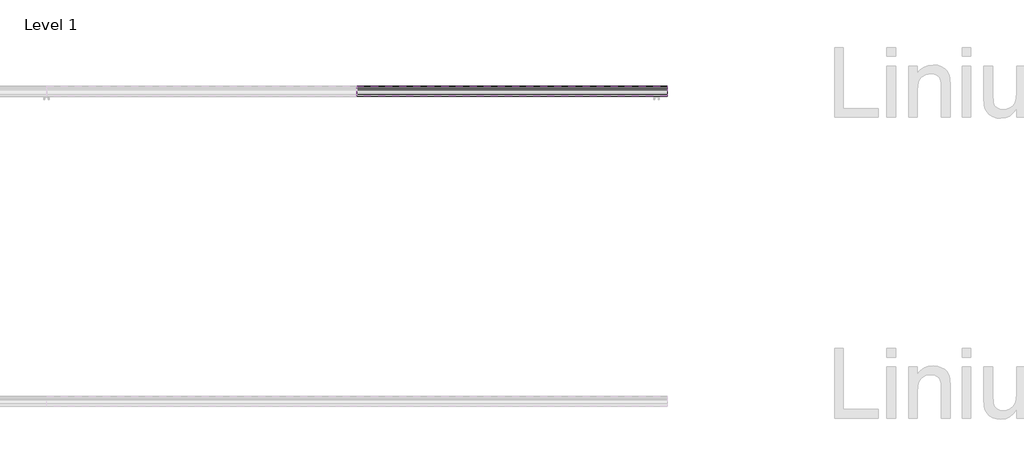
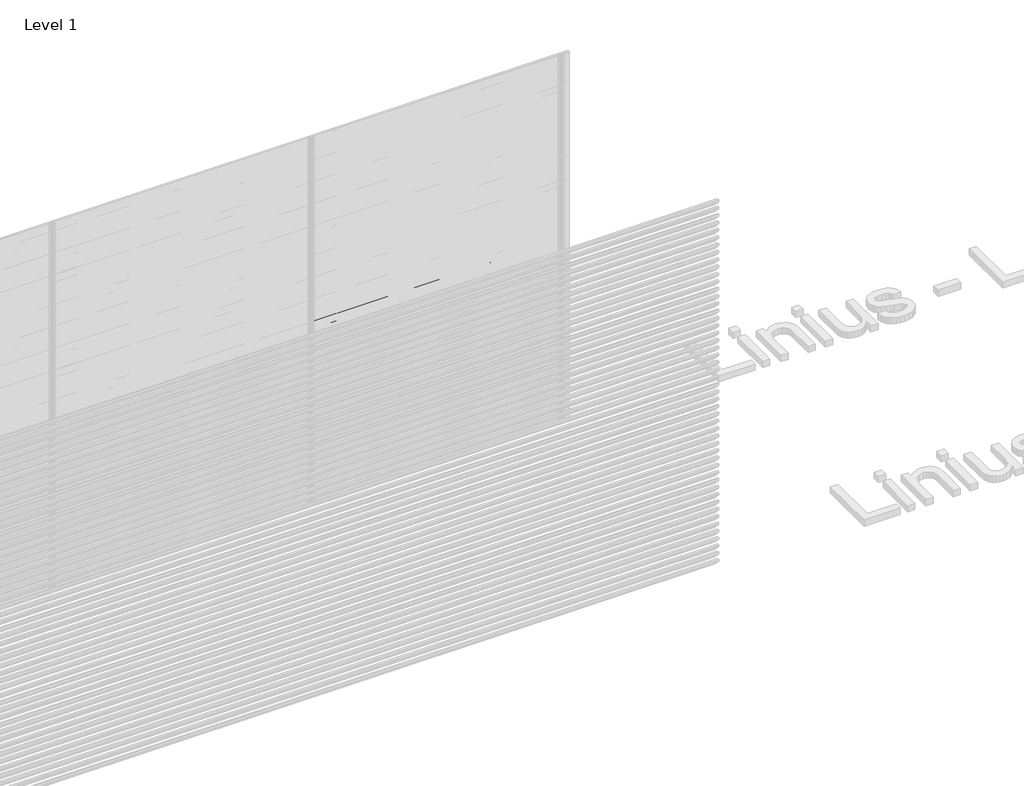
# One storey, part 147 of 153: 25 proxies.
"""IFC4 building model written with IfcOpenShell, lengths in millimetres."""

from ifc_helpers import new_model, si_unit, point, frame, frame_2d, origin, place, context, project, spatial, polyline, circle_curve, trimmed, segment, composite_curve, outline, extrude, element, save

model = new_model("IFC4")

# Units and contexts
model_context = context("Model", 3, world=origin())
ifc_project = project(units=[si_unit("LENGTHUNIT", "METRE", prefix="MILLI")], contexts=[model_context])

# Site, building, storey
site = spatial("IfcSite", under=ifc_project)
building = spatial("IfcBuilding", under=site)
storey = spatial("IfcBuildingStorey", under=building, Name="Level 1", Elevation=0.0)

# Proxies
placement = place(None, origin())
element("IfcBuildingElementProxy", 1, Name="Wall Sweeps", at=placement, inside=storey, context=model_context, shape_type="SweptSolid", body=[
    extrude(outline(composite_curve([segment(polyline([(66485.0540136, 1500.0), (66499.874191, 1498.7034025), (66549.0540136, 1445.0102749), (66549.0540136, 1433.6108187)]), True, "CONTINUOUS"), segment(trimmed(circle_curve(frame_2d((66545.7883652, 1433.897153)), 3.2781774), [point((66549.0540136, 1433.6108187))], [point((66546.4639442, 1430.6893438))], False, "CARTESIAN"), True, "CONTINUOUS"), segment(polyline([(66546.4639442, 1430.6893438), (66534.1895723, 1431.6282758), (66485.0540136, 1485.2730773), (66485.0540136, 1500.0)]), True, "CONTINUOUS")], self_intersect=False), holes=[composite_curve([segment(polyline([(66499.1621773, 1497.2599659), (66486.5540136, 1498.3630372), (66486.5540136, 1485.856213), (66534.8952036, 1433.0786805), (66546.3312542, 1432.2038762)]), True, "CONTINUOUS"), segment(trimmed(circle_curve(frame_2d((66545.7883652, 1433.897153)), 1.7781774), [point((66546.3312542, 1432.2038762))], [point((66547.5540136, 1433.6864389))], True, "CARTESIAN"), True, "CONTINUOUS"), segment(polyline([(66547.5540136, 1433.6864389), (66547.5540136, 1444.4271392), (66499.1621773, 1497.2599659)]), True, "CONTINUOUS")], self_intersect=False)]), frame((48966.6208096, 0.0, 0.0), z_axis=(1.0, 0.0, 0.0), x_axis=(0.0, 1.0, 0.0)), (0.0, 0.0, 1.0), 2000.0000001),
])
element("IfcBuildingElementProxy", 2, Name="Wall Sweeps", at=placement, inside=storey, context=model_context, shape_type="SweptSolid", body=[
    extrude(outline(composite_curve([segment(polyline([(66485.0540136, 1440.0), (66499.874191, 1438.7034025), (66549.0540136, 1385.0102749), (66549.0540136, 1373.6108187)]), True, "CONTINUOUS"), segment(trimmed(circle_curve(frame_2d((66545.7883652, 1373.897153)), 3.2781774), [point((66549.0540136, 1373.6108187))], [point((66546.4639442, 1370.6893438))], False, "CARTESIAN"), True, "CONTINUOUS"), segment(polyline([(66546.4639442, 1370.6893438), (66534.1895723, 1371.6282758), (66485.0540136, 1425.2730773), (66485.0540136, 1440.0)]), True, "CONTINUOUS")], self_intersect=False), holes=[composite_curve([segment(polyline([(66499.1621773, 1437.2599659), (66486.5540136, 1438.3630372), (66486.5540136, 1425.856213), (66534.8952036, 1373.0786805), (66546.3312542, 1372.2038762)]), True, "CONTINUOUS"), segment(trimmed(circle_curve(frame_2d((66545.7883652, 1373.897153)), 1.7781774), [point((66546.3312542, 1372.2038762))], [point((66547.5540136, 1373.6864389))], True, "CARTESIAN"), True, "CONTINUOUS"), segment(polyline([(66547.5540136, 1373.6864389), (66547.5540136, 1384.4271392), (66499.1621773, 1437.2599659)]), True, "CONTINUOUS")], self_intersect=False)]), frame((48966.6208096, 0.0, 0.0), z_axis=(1.0, 0.0, 0.0), x_axis=(0.0, 1.0, 0.0)), (0.0, 0.0, 1.0), 2000.0000001),
])
element("IfcBuildingElementProxy", 3, Name="Wall Sweeps", at=placement, inside=storey, context=model_context, shape_type="SweptSolid", body=[
    extrude(outline(composite_curve([segment(polyline([(66485.0540136, 1380.0), (66499.874191, 1378.7034025), (66549.0540136, 1325.0102749), (66549.0540136, 1313.6108187)]), True, "CONTINUOUS"), segment(trimmed(circle_curve(frame_2d((66545.7883652, 1313.897153)), 3.2781774), [point((66549.0540136, 1313.6108187))], [point((66546.4639442, 1310.6893438))], False, "CARTESIAN"), True, "CONTINUOUS"), segment(polyline([(66546.4639442, 1310.6893438), (66534.1895723, 1311.6282758), (66485.0540136, 1365.2730773), (66485.0540136, 1380.0)]), True, "CONTINUOUS")], self_intersect=False), holes=[composite_curve([segment(polyline([(66499.1621773, 1377.2599659), (66486.5540136, 1378.3630372), (66486.5540136, 1365.856213), (66534.8952036, 1313.0786805), (66546.3312542, 1312.2038762)]), True, "CONTINUOUS"), segment(trimmed(circle_curve(frame_2d((66545.7883652, 1313.897153)), 1.7781774), [point((66546.3312542, 1312.2038762))], [point((66547.5540136, 1313.6864389))], True, "CARTESIAN"), True, "CONTINUOUS"), segment(polyline([(66547.5540136, 1313.6864389), (66547.5540136, 1324.4271392), (66499.1621773, 1377.2599659)]), True, "CONTINUOUS")], self_intersect=False)]), frame((48966.6208096, 0.0, 0.0), z_axis=(1.0, 0.0, 0.0), x_axis=(0.0, 1.0, 0.0)), (0.0, 0.0, 1.0), 2000.0000001),
])
element("IfcBuildingElementProxy", 4, Name="Wall Sweeps", at=placement, inside=storey, context=model_context, shape_type="SweptSolid", body=[
    extrude(outline(composite_curve([segment(polyline([(66485.0540136, 1320.0), (66499.874191, 1318.7034025), (66549.0540136, 1265.0102749), (66549.0540136, 1253.6108187)]), True, "CONTINUOUS"), segment(trimmed(circle_curve(frame_2d((66545.7883652, 1253.897153)), 3.2781774), [point((66549.0540136, 1253.6108187))], [point((66546.4639442, 1250.6893438))], False, "CARTESIAN"), True, "CONTINUOUS"), segment(polyline([(66546.4639442, 1250.6893438), (66534.1895723, 1251.6282758), (66485.0540136, 1305.2730773), (66485.0540136, 1320.0)]), True, "CONTINUOUS")], self_intersect=False), holes=[composite_curve([segment(polyline([(66499.1621773, 1317.2599659), (66486.5540136, 1318.3630372), (66486.5540136, 1305.856213), (66534.8952036, 1253.0786805), (66546.3312542, 1252.2038762)]), True, "CONTINUOUS"), segment(trimmed(circle_curve(frame_2d((66545.7883652, 1253.897153)), 1.7781774), [point((66546.3312542, 1252.2038762))], [point((66547.5540136, 1253.6864389))], True, "CARTESIAN"), True, "CONTINUOUS"), segment(polyline([(66547.5540136, 1253.6864389), (66547.5540136, 1264.4271392), (66499.1621773, 1317.2599659)]), True, "CONTINUOUS")], self_intersect=False)]), frame((48966.6208096, 0.0, 0.0), z_axis=(1.0, 0.0, 0.0), x_axis=(0.0, 1.0, 0.0)), (0.0, 0.0, 1.0), 2000.0000001),
])
element("IfcBuildingElementProxy", 5, Name="Wall Sweeps", at=placement, inside=storey, context=model_context, shape_type="SweptSolid", body=[
    extrude(outline(composite_curve([segment(polyline([(66485.0540136, 1260.0), (66499.874191, 1258.7034025), (66549.0540136, 1205.0102749), (66549.0540136, 1193.6108187)]), True, "CONTINUOUS"), segment(trimmed(circle_curve(frame_2d((66545.7883652, 1193.897153)), 3.2781774), [point((66549.0540136, 1193.6108187))], [point((66546.4639442, 1190.6893438))], False, "CARTESIAN"), True, "CONTINUOUS"), segment(polyline([(66546.4639442, 1190.6893438), (66534.1895723, 1191.6282758), (66485.0540136, 1245.2730773), (66485.0540136, 1260.0)]), True, "CONTINUOUS")], self_intersect=False), holes=[composite_curve([segment(polyline([(66499.1621773, 1257.2599659), (66486.5540136, 1258.3630372), (66486.5540136, 1245.856213), (66534.8952036, 1193.0786805), (66546.3312542, 1192.2038762)]), True, "CONTINUOUS"), segment(trimmed(circle_curve(frame_2d((66545.7883652, 1193.897153)), 1.7781774), [point((66546.3312542, 1192.2038762))], [point((66547.5540136, 1193.6864389))], True, "CARTESIAN"), True, "CONTINUOUS"), segment(polyline([(66547.5540136, 1193.6864389), (66547.5540136, 1204.4271392), (66499.1621773, 1257.2599659)]), True, "CONTINUOUS")], self_intersect=False)]), frame((48966.6208096, 0.0, 0.0), z_axis=(1.0, 0.0, 0.0), x_axis=(0.0, 1.0, 0.0)), (0.0, 0.0, 1.0), 2000.0000001),
])
element("IfcBuildingElementProxy", 6, Name="Wall Sweeps", at=placement, inside=storey, context=model_context, shape_type="SweptSolid", body=[
    extrude(outline(composite_curve([segment(polyline([(66485.0540136, 1200.0), (66499.874191, 1198.7034025), (66549.0540136, 1145.0102749), (66549.0540136, 1133.6108187)]), True, "CONTINUOUS"), segment(trimmed(circle_curve(frame_2d((66545.7883652, 1133.897153)), 3.2781774), [point((66549.0540136, 1133.6108187))], [point((66546.4639442, 1130.6893438))], False, "CARTESIAN"), True, "CONTINUOUS"), segment(polyline([(66546.4639442, 1130.6893438), (66534.1895723, 1131.6282758), (66485.0540136, 1185.2730773), (66485.0540136, 1200.0)]), True, "CONTINUOUS")], self_intersect=False), holes=[composite_curve([segment(polyline([(66499.1621773, 1197.2599659), (66486.5540136, 1198.3630372), (66486.5540136, 1185.856213), (66534.8952036, 1133.0786805), (66546.3312542, 1132.2038762)]), True, "CONTINUOUS"), segment(trimmed(circle_curve(frame_2d((66545.7883652, 1133.897153)), 1.7781774), [point((66546.3312542, 1132.2038762))], [point((66547.5540136, 1133.6864389))], True, "CARTESIAN"), True, "CONTINUOUS"), segment(polyline([(66547.5540136, 1133.6864389), (66547.5540136, 1144.4271392), (66499.1621773, 1197.2599659)]), True, "CONTINUOUS")], self_intersect=False)]), frame((48966.6208096, 0.0, 0.0), z_axis=(1.0, 0.0, 0.0), x_axis=(0.0, 1.0, 0.0)), (0.0, 0.0, 1.0), 2000.0000001),
])
element("IfcBuildingElementProxy", 7, Name="Wall Sweeps", at=placement, inside=storey, context=model_context, shape_type="SweptSolid", body=[
    extrude(outline(composite_curve([segment(polyline([(66485.0540136, 1140.0), (66499.874191, 1138.7034025), (66549.0540136, 1085.0102749), (66549.0540136, 1073.6108187)]), True, "CONTINUOUS"), segment(trimmed(circle_curve(frame_2d((66545.7883652, 1073.897153)), 3.2781774), [point((66549.0540136, 1073.6108187))], [point((66546.4639442, 1070.6893438))], False, "CARTESIAN"), True, "CONTINUOUS"), segment(polyline([(66546.4639442, 1070.6893438), (66534.1895723, 1071.6282758), (66485.0540136, 1125.2730773), (66485.0540136, 1140.0)]), True, "CONTINUOUS")], self_intersect=False), holes=[composite_curve([segment(polyline([(66499.1621773, 1137.2599659), (66486.5540136, 1138.3630372), (66486.5540136, 1125.856213), (66534.8952036, 1073.0786805), (66546.3312542, 1072.2038762)]), True, "CONTINUOUS"), segment(trimmed(circle_curve(frame_2d((66545.7883652, 1073.897153)), 1.7781774), [point((66546.3312542, 1072.2038762))], [point((66547.5540136, 1073.6864389))], True, "CARTESIAN"), True, "CONTINUOUS"), segment(polyline([(66547.5540136, 1073.6864389), (66547.5540136, 1084.4271392), (66499.1621773, 1137.2599659)]), True, "CONTINUOUS")], self_intersect=False)]), frame((48966.6208096, 0.0, 0.0), z_axis=(1.0, 0.0, 0.0), x_axis=(0.0, 1.0, 0.0)), (0.0, 0.0, 1.0), 2000.0000001),
])
element("IfcBuildingElementProxy", 8, Name="Wall Sweeps", at=placement, inside=storey, context=model_context, shape_type="SweptSolid", body=[
    extrude(outline(composite_curve([segment(polyline([(66485.0540136, 1080.0), (66499.874191, 1078.7034025), (66549.0540136, 1025.0102749), (66549.0540136, 1013.6108187)]), True, "CONTINUOUS"), segment(trimmed(circle_curve(frame_2d((66545.7883652, 1013.897153)), 3.2781774), [point((66549.0540136, 1013.6108187))], [point((66546.4639442, 1010.6893438))], False, "CARTESIAN"), True, "CONTINUOUS"), segment(polyline([(66546.4639442, 1010.6893438), (66534.1895723, 1011.6282758), (66485.0540136, 1065.2730773), (66485.0540136, 1080.0)]), True, "CONTINUOUS")], self_intersect=False), holes=[composite_curve([segment(polyline([(66499.1621773, 1077.2599659), (66486.5540136, 1078.3630372), (66486.5540136, 1065.856213), (66534.8952036, 1013.0786805), (66546.3312542, 1012.2038762)]), True, "CONTINUOUS"), segment(trimmed(circle_curve(frame_2d((66545.7883652, 1013.897153)), 1.7781774), [point((66546.3312542, 1012.2038762))], [point((66547.5540136, 1013.6864389))], True, "CARTESIAN"), True, "CONTINUOUS"), segment(polyline([(66547.5540136, 1013.6864389), (66547.5540136, 1024.4271392), (66499.1621773, 1077.2599659)]), True, "CONTINUOUS")], self_intersect=False)]), frame((48966.6208096, 0.0, 0.0), z_axis=(1.0, 0.0, 0.0), x_axis=(0.0, 1.0, 0.0)), (0.0, 0.0, 1.0), 2000.0000001),
])
element("IfcBuildingElementProxy", 9, Name="Wall Sweeps", at=placement, inside=storey, context=model_context, shape_type="SweptSolid", body=[
    extrude(outline(composite_curve([segment(polyline([(66485.0540136, 1020.0), (66499.874191, 1018.7034025), (66549.0540136, 965.0102749), (66549.0540136, 953.6108187)]), True, "CONTINUOUS"), segment(trimmed(circle_curve(frame_2d((66545.7883652, 953.897153)), 3.2781774), [point((66549.0540136, 953.6108187))], [point((66546.4639442, 950.6893438))], False, "CARTESIAN"), True, "CONTINUOUS"), segment(polyline([(66546.4639442, 950.6893438), (66534.1895723, 951.6282758), (66485.0540136, 1005.2730773), (66485.0540136, 1020.0)]), True, "CONTINUOUS")], self_intersect=False), holes=[composite_curve([segment(polyline([(66499.1621773, 1017.2599659), (66486.5540136, 1018.3630372), (66486.5540136, 1005.856213), (66534.8952036, 953.0786805), (66546.3312542, 952.2038762)]), True, "CONTINUOUS"), segment(trimmed(circle_curve(frame_2d((66545.7883652, 953.897153)), 1.7781774), [point((66546.3312542, 952.2038762))], [point((66547.5540136, 953.6864389))], True, "CARTESIAN"), True, "CONTINUOUS"), segment(polyline([(66547.5540136, 953.6864389), (66547.5540136, 964.4271392), (66499.1621773, 1017.2599659)]), True, "CONTINUOUS")], self_intersect=False)]), frame((48966.6208096, 0.0, 0.0), z_axis=(1.0, 0.0, 0.0), x_axis=(0.0, 1.0, 0.0)), (0.0, 0.0, 1.0), 2000.0000001),
])
element("IfcBuildingElementProxy", 10, Name="Wall Sweeps", at=placement, inside=storey, context=model_context, shape_type="SweptSolid", body=[
    extrude(outline(composite_curve([segment(polyline([(66485.0540136, 960.0), (66499.874191, 958.7034025), (66549.0540136, 905.0102749), (66549.0540136, 893.6108187)]), True, "CONTINUOUS"), segment(trimmed(circle_curve(frame_2d((66545.7883652, 893.897153)), 3.2781774), [point((66549.0540136, 893.6108187))], [point((66546.4639442, 890.6893438))], False, "CARTESIAN"), True, "CONTINUOUS"), segment(polyline([(66546.4639442, 890.6893438), (66534.1895723, 891.6282758), (66485.0540136, 945.2730773), (66485.0540136, 960.0)]), True, "CONTINUOUS")], self_intersect=False), holes=[composite_curve([segment(polyline([(66499.1621773, 957.2599659), (66486.5540136, 958.3630372), (66486.5540136, 945.856213), (66534.8952036, 893.0786805), (66546.3312542, 892.2038762)]), True, "CONTINUOUS"), segment(trimmed(circle_curve(frame_2d((66545.7883652, 893.897153)), 1.7781774), [point((66546.3312542, 892.2038762))], [point((66547.5540136, 893.6864389))], True, "CARTESIAN"), True, "CONTINUOUS"), segment(polyline([(66547.5540136, 893.6864389), (66547.5540136, 904.4271392), (66499.1621773, 957.2599659)]), True, "CONTINUOUS")], self_intersect=False)]), frame((48966.6208096, 0.0, 0.0), z_axis=(1.0, 0.0, 0.0), x_axis=(0.0, 1.0, 0.0)), (0.0, 0.0, 1.0), 2000.0000001),
])
element("IfcBuildingElementProxy", 11, Name="Wall Sweeps", at=placement, inside=storey, context=model_context, shape_type="SweptSolid", body=[
    extrude(outline(composite_curve([segment(polyline([(66485.0540136, 900.0), (66499.874191, 898.7034025), (66549.0540136, 845.0102749), (66549.0540136, 833.6108187)]), True, "CONTINUOUS"), segment(trimmed(circle_curve(frame_2d((66545.7883652, 833.897153)), 3.2781774), [point((66549.0540136, 833.6108187))], [point((66546.4639442, 830.6893438))], False, "CARTESIAN"), True, "CONTINUOUS"), segment(polyline([(66546.4639442, 830.6893438), (66534.1895723, 831.6282758), (66485.0540136, 885.2730773), (66485.0540136, 900.0)]), True, "CONTINUOUS")], self_intersect=False), holes=[composite_curve([segment(polyline([(66499.1621773, 897.2599659), (66486.5540136, 898.3630372), (66486.5540136, 885.856213), (66534.8952036, 833.0786805), (66546.3312542, 832.2038762)]), True, "CONTINUOUS"), segment(trimmed(circle_curve(frame_2d((66545.7883652, 833.897153)), 1.7781774), [point((66546.3312542, 832.2038762))], [point((66547.5540136, 833.6864389))], True, "CARTESIAN"), True, "CONTINUOUS"), segment(polyline([(66547.5540136, 833.6864389), (66547.5540136, 844.4271392), (66499.1621773, 897.2599659)]), True, "CONTINUOUS")], self_intersect=False)]), frame((48966.6208096, 0.0, 0.0), z_axis=(1.0, 0.0, 0.0), x_axis=(0.0, 1.0, 0.0)), (0.0, 0.0, 1.0), 2000.0000001),
])
element("IfcBuildingElementProxy", 12, Name="Wall Sweeps", at=placement, inside=storey, context=model_context, shape_type="SweptSolid", body=[
    extrude(outline(composite_curve([segment(polyline([(66485.0540136, 840.0), (66499.874191, 838.7034025), (66549.0540136, 785.0102749), (66549.0540136, 773.6108187)]), True, "CONTINUOUS"), segment(trimmed(circle_curve(frame_2d((66545.7883652, 773.897153)), 3.2781774), [point((66549.0540136, 773.6108187))], [point((66546.4639442, 770.6893438))], False, "CARTESIAN"), True, "CONTINUOUS"), segment(polyline([(66546.4639442, 770.6893438), (66534.1895723, 771.6282758), (66485.0540136, 825.2730773), (66485.0540136, 840.0)]), True, "CONTINUOUS")], self_intersect=False), holes=[composite_curve([segment(polyline([(66499.1621773, 837.2599659), (66486.5540136, 838.3630372), (66486.5540136, 825.856213), (66534.8952036, 773.0786805), (66546.3312542, 772.2038762)]), True, "CONTINUOUS"), segment(trimmed(circle_curve(frame_2d((66545.7883652, 773.897153)), 1.7781774), [point((66546.3312542, 772.2038762))], [point((66547.5540136, 773.6864389))], True, "CARTESIAN"), True, "CONTINUOUS"), segment(polyline([(66547.5540136, 773.6864389), (66547.5540136, 784.4271392), (66499.1621773, 837.2599659)]), True, "CONTINUOUS")], self_intersect=False)]), frame((48966.6208096, 0.0, 0.0), z_axis=(1.0, 0.0, 0.0), x_axis=(0.0, 1.0, 0.0)), (0.0, 0.0, 1.0), 2000.0000001),
])
element("IfcBuildingElementProxy", 13, Name="Wall Sweeps", at=placement, inside=storey, context=model_context, shape_type="SweptSolid", body=[
    extrude(outline(composite_curve([segment(polyline([(66485.0540136, 780.0), (66499.874191, 778.7034025), (66549.0540136, 725.0102749), (66549.0540136, 713.6108187)]), True, "CONTINUOUS"), segment(trimmed(circle_curve(frame_2d((66545.7883652, 713.897153)), 3.2781774), [point((66549.0540136, 713.6108187))], [point((66546.4639442, 710.6893438))], False, "CARTESIAN"), True, "CONTINUOUS"), segment(polyline([(66546.4639442, 710.6893438), (66534.1895723, 711.6282758), (66485.0540136, 765.2730773), (66485.0540136, 780.0)]), True, "CONTINUOUS")], self_intersect=False), holes=[composite_curve([segment(polyline([(66499.1621773, 777.2599659), (66486.5540136, 778.3630372), (66486.5540136, 765.856213), (66534.8952036, 713.0786805), (66546.3312542, 712.2038762)]), True, "CONTINUOUS"), segment(trimmed(circle_curve(frame_2d((66545.7883652, 713.897153)), 1.7781774), [point((66546.3312542, 712.2038762))], [point((66547.5540136, 713.6864389))], True, "CARTESIAN"), True, "CONTINUOUS"), segment(polyline([(66547.5540136, 713.6864389), (66547.5540136, 724.4271392), (66499.1621773, 777.2599659)]), True, "CONTINUOUS")], self_intersect=False)]), frame((48966.6208096, 0.0, 0.0), z_axis=(1.0, 0.0, 0.0), x_axis=(0.0, 1.0, 0.0)), (0.0, 0.0, 1.0), 2000.0000001),
])
element("IfcBuildingElementProxy", 14, Name="Wall Sweeps", at=placement, inside=storey, context=model_context, shape_type="SweptSolid", body=[
    extrude(outline(composite_curve([segment(polyline([(66485.0540136, 720.0), (66499.874191, 718.7034025), (66549.0540136, 665.0102749), (66549.0540136, 653.6108187)]), True, "CONTINUOUS"), segment(trimmed(circle_curve(frame_2d((66545.7883652, 653.897153)), 3.2781774), [point((66549.0540136, 653.6108187))], [point((66546.4639442, 650.6893438))], False, "CARTESIAN"), True, "CONTINUOUS"), segment(polyline([(66546.4639442, 650.6893438), (66534.1895723, 651.6282758), (66485.0540136, 705.2730773), (66485.0540136, 720.0)]), True, "CONTINUOUS")], self_intersect=False), holes=[composite_curve([segment(polyline([(66499.1621773, 717.2599659), (66486.5540136, 718.3630372), (66486.5540136, 705.856213), (66534.8952036, 653.0786805), (66546.3312542, 652.2038762)]), True, "CONTINUOUS"), segment(trimmed(circle_curve(frame_2d((66545.7883652, 653.897153)), 1.7781774), [point((66546.3312542, 652.2038762))], [point((66547.5540136, 653.6864389))], True, "CARTESIAN"), True, "CONTINUOUS"), segment(polyline([(66547.5540136, 653.6864389), (66547.5540136, 664.4271392), (66499.1621773, 717.2599659)]), True, "CONTINUOUS")], self_intersect=False)]), frame((48966.6208096, 0.0, 0.0), z_axis=(1.0, 0.0, 0.0), x_axis=(0.0, 1.0, 0.0)), (0.0, 0.0, 1.0), 2000.0000001),
])
element("IfcBuildingElementProxy", 15, Name="Wall Sweeps", at=placement, inside=storey, context=model_context, shape_type="SweptSolid", body=[
    extrude(outline(composite_curve([segment(polyline([(66485.0540136, 660.0), (66499.874191, 658.7034025), (66549.0540136, 605.0102749), (66549.0540136, 593.6108187)]), True, "CONTINUOUS"), segment(trimmed(circle_curve(frame_2d((66545.7883652, 593.897153)), 3.2781774), [point((66549.0540136, 593.6108187))], [point((66546.4639442, 590.6893438))], False, "CARTESIAN"), True, "CONTINUOUS"), segment(polyline([(66546.4639442, 590.6893438), (66534.1895723, 591.6282758), (66485.0540136, 645.2730773), (66485.0540136, 660.0)]), True, "CONTINUOUS")], self_intersect=False), holes=[composite_curve([segment(polyline([(66499.1621773, 657.2599659), (66486.5540136, 658.3630372), (66486.5540136, 645.856213), (66534.8952036, 593.0786805), (66546.3312542, 592.2038762)]), True, "CONTINUOUS"), segment(trimmed(circle_curve(frame_2d((66545.7883652, 593.897153)), 1.7781774), [point((66546.3312542, 592.2038762))], [point((66547.5540136, 593.6864389))], True, "CARTESIAN"), True, "CONTINUOUS"), segment(polyline([(66547.5540136, 593.6864389), (66547.5540136, 604.4271392), (66499.1621773, 657.2599659)]), True, "CONTINUOUS")], self_intersect=False)]), frame((48966.6208096, 0.0, 0.0), z_axis=(1.0, 0.0, 0.0), x_axis=(0.0, 1.0, 0.0)), (0.0, 0.0, 1.0), 2000.0000001),
])
element("IfcBuildingElementProxy", 16, Name="Wall Sweeps", at=placement, inside=storey, context=model_context, shape_type="SweptSolid", body=[
    extrude(outline(composite_curve([segment(polyline([(66485.0540136, 600.0), (66499.874191, 598.7034025), (66549.0540136, 545.0102749), (66549.0540136, 533.6108187)]), True, "CONTINUOUS"), segment(trimmed(circle_curve(frame_2d((66545.7883652, 533.897153)), 3.2781774), [point((66549.0540136, 533.6108187))], [point((66546.4639442, 530.6893438))], False, "CARTESIAN"), True, "CONTINUOUS"), segment(polyline([(66546.4639442, 530.6893438), (66534.1895723, 531.6282758), (66485.0540136, 585.2730773), (66485.0540136, 600.0)]), True, "CONTINUOUS")], self_intersect=False), holes=[composite_curve([segment(polyline([(66499.1621773, 597.2599659), (66486.5540136, 598.3630372), (66486.5540136, 585.856213), (66534.8952036, 533.0786805), (66546.3312542, 532.2038762)]), True, "CONTINUOUS"), segment(trimmed(circle_curve(frame_2d((66545.7883652, 533.897153)), 1.7781774), [point((66546.3312542, 532.2038762))], [point((66547.5540136, 533.6864389))], True, "CARTESIAN"), True, "CONTINUOUS"), segment(polyline([(66547.5540136, 533.6864389), (66547.5540136, 544.4271392), (66499.1621773, 597.2599659)]), True, "CONTINUOUS")], self_intersect=False)]), frame((48966.6208096, 0.0, 0.0), z_axis=(1.0, 0.0, 0.0), x_axis=(0.0, 1.0, 0.0)), (0.0, 0.0, 1.0), 2000.0000001),
])
element("IfcBuildingElementProxy", 17, Name="Wall Sweeps", at=placement, inside=storey, context=model_context, shape_type="SweptSolid", body=[
    extrude(outline(composite_curve([segment(polyline([(66485.0540136, 540.0), (66499.874191, 538.7034025), (66549.0540136, 485.0102749), (66549.0540136, 473.6108187)]), True, "CONTINUOUS"), segment(trimmed(circle_curve(frame_2d((66545.7883652, 473.897153)), 3.2781774), [point((66549.0540136, 473.6108187))], [point((66546.4639442, 470.6893438))], False, "CARTESIAN"), True, "CONTINUOUS"), segment(polyline([(66546.4639442, 470.6893438), (66534.1895723, 471.6282758), (66485.0540136, 525.2730773), (66485.0540136, 540.0)]), True, "CONTINUOUS")], self_intersect=False), holes=[composite_curve([segment(polyline([(66499.1621773, 537.2599659), (66486.5540136, 538.3630372), (66486.5540136, 525.856213), (66534.8952036, 473.0786805), (66546.3312542, 472.2038762)]), True, "CONTINUOUS"), segment(trimmed(circle_curve(frame_2d((66545.7883652, 473.897153)), 1.7781774), [point((66546.3312542, 472.2038762))], [point((66547.5540136, 473.6864389))], True, "CARTESIAN"), True, "CONTINUOUS"), segment(polyline([(66547.5540136, 473.6864389), (66547.5540136, 484.4271392), (66499.1621773, 537.2599659)]), True, "CONTINUOUS")], self_intersect=False)]), frame((48966.6208096, 0.0, 0.0), z_axis=(1.0, 0.0, 0.0), x_axis=(0.0, 1.0, 0.0)), (0.0, 0.0, 1.0), 2000.0000001),
])
element("IfcBuildingElementProxy", 18, Name="Wall Sweeps", at=placement, inside=storey, context=model_context, shape_type="SweptSolid", body=[
    extrude(outline(composite_curve([segment(polyline([(66485.0540136, 480.0), (66499.874191, 478.7034025), (66549.0540136, 425.0102749), (66549.0540136, 413.6108187)]), True, "CONTINUOUS"), segment(trimmed(circle_curve(frame_2d((66545.7883652, 413.897153)), 3.2781774), [point((66549.0540136, 413.6108187))], [point((66546.4639442, 410.6893438))], False, "CARTESIAN"), True, "CONTINUOUS"), segment(polyline([(66546.4639442, 410.6893438), (66534.1895723, 411.6282758), (66485.0540136, 465.2730773), (66485.0540136, 480.0)]), True, "CONTINUOUS")], self_intersect=False), holes=[composite_curve([segment(polyline([(66499.1621773, 477.2599659), (66486.5540136, 478.3630372), (66486.5540136, 465.856213), (66534.8952036, 413.0786805), (66546.3312542, 412.2038762)]), True, "CONTINUOUS"), segment(trimmed(circle_curve(frame_2d((66545.7883652, 413.897153)), 1.7781774), [point((66546.3312542, 412.2038762))], [point((66547.5540136, 413.6864389))], True, "CARTESIAN"), True, "CONTINUOUS"), segment(polyline([(66547.5540136, 413.6864389), (66547.5540136, 424.4271392), (66499.1621773, 477.2599659)]), True, "CONTINUOUS")], self_intersect=False)]), frame((48966.6208096, 0.0, 0.0), z_axis=(1.0, 0.0, 0.0), x_axis=(0.0, 1.0, 0.0)), (0.0, 0.0, 1.0), 2000.0000001),
])
element("IfcBuildingElementProxy", 19, Name="Wall Sweeps", at=placement, inside=storey, context=model_context, shape_type="SweptSolid", body=[
    extrude(outline(composite_curve([segment(polyline([(66485.0540136, 420.0), (66499.874191, 418.7034025), (66549.0540136, 365.0102749), (66549.0540136, 353.6108187)]), True, "CONTINUOUS"), segment(trimmed(circle_curve(frame_2d((66545.7883652, 353.897153)), 3.2781774), [point((66549.0540136, 353.6108187))], [point((66546.4639442, 350.6893438))], False, "CARTESIAN"), True, "CONTINUOUS"), segment(polyline([(66546.4639442, 350.6893438), (66534.1895723, 351.6282758), (66485.0540136, 405.2730773), (66485.0540136, 420.0)]), True, "CONTINUOUS")], self_intersect=False), holes=[composite_curve([segment(polyline([(66499.1621773, 417.2599659), (66486.5540136, 418.3630372), (66486.5540136, 405.856213), (66534.8952036, 353.0786805), (66546.3312542, 352.2038762)]), True, "CONTINUOUS"), segment(trimmed(circle_curve(frame_2d((66545.7883652, 353.897153)), 1.7781774), [point((66546.3312542, 352.2038762))], [point((66547.5540136, 353.6864389))], True, "CARTESIAN"), True, "CONTINUOUS"), segment(polyline([(66547.5540136, 353.6864389), (66547.5540136, 364.4271392), (66499.1621773, 417.2599659)]), True, "CONTINUOUS")], self_intersect=False)]), frame((48966.6208096, 0.0, 0.0), z_axis=(1.0, 0.0, 0.0), x_axis=(0.0, 1.0, 0.0)), (0.0, 0.0, 1.0), 2000.0000001),
])
element("IfcBuildingElementProxy", 20, Name="Wall Sweeps", at=placement, inside=storey, context=model_context, shape_type="SweptSolid", body=[
    extrude(outline(composite_curve([segment(polyline([(66485.0540136, 360.0), (66499.874191, 358.7034025), (66549.0540136, 305.0102749), (66549.0540136, 293.6108187)]), True, "CONTINUOUS"), segment(trimmed(circle_curve(frame_2d((66545.7883652, 293.897153)), 3.2781774), [point((66549.0540136, 293.6108187))], [point((66546.4639442, 290.6893438))], False, "CARTESIAN"), True, "CONTINUOUS"), segment(polyline([(66546.4639442, 290.6893438), (66534.1895723, 291.6282758), (66485.0540136, 345.2730773), (66485.0540136, 360.0)]), True, "CONTINUOUS")], self_intersect=False), holes=[composite_curve([segment(polyline([(66499.1621773, 357.2599659), (66486.5540136, 358.3630372), (66486.5540136, 345.856213), (66534.8952036, 293.0786805), (66546.3312542, 292.2038762)]), True, "CONTINUOUS"), segment(trimmed(circle_curve(frame_2d((66545.7883652, 293.897153)), 1.7781774), [point((66546.3312542, 292.2038762))], [point((66547.5540136, 293.6864389))], True, "CARTESIAN"), True, "CONTINUOUS"), segment(polyline([(66547.5540136, 293.6864389), (66547.5540136, 304.4271392), (66499.1621773, 357.2599659)]), True, "CONTINUOUS")], self_intersect=False)]), frame((48966.6208096, 0.0, 0.0), z_axis=(1.0, 0.0, 0.0), x_axis=(0.0, 1.0, 0.0)), (0.0, 0.0, 1.0), 2000.0000001),
])
element("IfcBuildingElementProxy", 21, Name="Wall Sweeps", at=placement, inside=storey, context=model_context, shape_type="SweptSolid", body=[
    extrude(outline(composite_curve([segment(polyline([(66485.0540136, 300.0), (66499.874191, 298.7034025), (66549.0540136, 245.0102749), (66549.0540136, 233.6108187)]), True, "CONTINUOUS"), segment(trimmed(circle_curve(frame_2d((66545.7883652, 233.897153)), 3.2781774), [point((66549.0540136, 233.6108187))], [point((66546.4639442, 230.6893438))], False, "CARTESIAN"), True, "CONTINUOUS"), segment(polyline([(66546.4639442, 230.6893438), (66534.1895723, 231.6282758), (66485.0540136, 285.2730773), (66485.0540136, 300.0)]), True, "CONTINUOUS")], self_intersect=False), holes=[composite_curve([segment(polyline([(66499.1621773, 297.2599659), (66486.5540136, 298.3630372), (66486.5540136, 285.856213), (66534.8952036, 233.0786805), (66546.3312542, 232.2038762)]), True, "CONTINUOUS"), segment(trimmed(circle_curve(frame_2d((66545.7883652, 233.897153)), 1.7781774), [point((66546.3312542, 232.2038762))], [point((66547.5540136, 233.6864389))], True, "CARTESIAN"), True, "CONTINUOUS"), segment(polyline([(66547.5540136, 233.6864389), (66547.5540136, 244.4271392), (66499.1621773, 297.2599659)]), True, "CONTINUOUS")], self_intersect=False)]), frame((48966.6208096, 0.0, 0.0), z_axis=(1.0, 0.0, 0.0), x_axis=(0.0, 1.0, 0.0)), (0.0, 0.0, 1.0), 2000.0000001),
])
element("IfcBuildingElementProxy", 22, Name="Wall Sweeps", at=placement, inside=storey, context=model_context, shape_type="SweptSolid", body=[
    extrude(outline(composite_curve([segment(polyline([(66485.0540136, 240.0), (66499.874191, 238.7034025), (66549.0540136, 185.0102749), (66549.0540136, 173.6108187)]), True, "CONTINUOUS"), segment(trimmed(circle_curve(frame_2d((66545.7883652, 173.897153)), 3.2781774), [point((66549.0540136, 173.6108187))], [point((66546.4639442, 170.6893438))], False, "CARTESIAN"), True, "CONTINUOUS"), segment(polyline([(66546.4639442, 170.6893438), (66534.1895723, 171.6282758), (66485.0540136, 225.2730773), (66485.0540136, 240.0)]), True, "CONTINUOUS")], self_intersect=False), holes=[composite_curve([segment(polyline([(66499.1621773, 237.2599659), (66486.5540136, 238.3630372), (66486.5540136, 225.856213), (66534.8952036, 173.0786805), (66546.3312542, 172.2038762)]), True, "CONTINUOUS"), segment(trimmed(circle_curve(frame_2d((66545.7883652, 173.897153)), 1.7781774), [point((66546.3312542, 172.2038762))], [point((66547.5540136, 173.6864389))], True, "CARTESIAN"), True, "CONTINUOUS"), segment(polyline([(66547.5540136, 173.6864389), (66547.5540136, 184.4271392), (66499.1621773, 237.2599659)]), True, "CONTINUOUS")], self_intersect=False)]), frame((48966.6208096, 0.0, 0.0), z_axis=(1.0, 0.0, 0.0), x_axis=(0.0, 1.0, 0.0)), (0.0, 0.0, 1.0), 2000.0000001),
])
element("IfcBuildingElementProxy", 23, Name="Wall Sweeps", at=placement, inside=storey, context=model_context, shape_type="SweptSolid", body=[
    extrude(outline(composite_curve([segment(polyline([(66485.0540136, 180.0), (66499.874191, 178.7034025), (66549.0540136, 125.0102749), (66549.0540136, 113.6108187)]), True, "CONTINUOUS"), segment(trimmed(circle_curve(frame_2d((66545.7883652, 113.897153)), 3.2781774), [point((66549.0540136, 113.6108187))], [point((66546.4639442, 110.6893438))], False, "CARTESIAN"), True, "CONTINUOUS"), segment(polyline([(66546.4639442, 110.6893438), (66534.1895723, 111.6282758), (66485.0540136, 165.2730773), (66485.0540136, 180.0)]), True, "CONTINUOUS")], self_intersect=False), holes=[composite_curve([segment(polyline([(66499.1621773, 177.2599659), (66486.5540136, 178.3630372), (66486.5540136, 165.856213), (66534.8952036, 113.0786805), (66546.3312542, 112.2038762)]), True, "CONTINUOUS"), segment(trimmed(circle_curve(frame_2d((66545.7883652, 113.897153)), 1.7781774), [point((66546.3312542, 112.2038762))], [point((66547.5540136, 113.6864389))], True, "CARTESIAN"), True, "CONTINUOUS"), segment(polyline([(66547.5540136, 113.6864389), (66547.5540136, 124.4271392), (66499.1621773, 177.2599659)]), True, "CONTINUOUS")], self_intersect=False)]), frame((48966.6208096, 0.0, 0.0), z_axis=(1.0, 0.0, 0.0), x_axis=(0.0, 1.0, 0.0)), (0.0, 0.0, 1.0), 2000.0000001),
])
element("IfcBuildingElementProxy", 24, Name="Wall Sweeps", at=placement, inside=storey, context=model_context, shape_type="SweptSolid", body=[
    extrude(outline(composite_curve([segment(polyline([(66485.0540136, 120.0), (66499.874191, 118.7034025), (66549.0540136, 65.0102749), (66549.0540136, 53.6108187)]), True, "CONTINUOUS"), segment(trimmed(circle_curve(frame_2d((66545.7883652, 53.897153)), 3.2781774), [point((66549.0540136, 53.6108187))], [point((66546.4639442, 50.6893438))], False, "CARTESIAN"), True, "CONTINUOUS"), segment(polyline([(66546.4639442, 50.6893438), (66534.1895723, 51.6282758), (66485.0540136, 105.2730773), (66485.0540136, 120.0)]), True, "CONTINUOUS")], self_intersect=False), holes=[composite_curve([segment(polyline([(66499.1621773, 117.2599659), (66486.5540136, 118.3630372), (66486.5540136, 105.856213), (66534.8952036, 53.0786805), (66546.3312542, 52.2038762)]), True, "CONTINUOUS"), segment(trimmed(circle_curve(frame_2d((66545.7883652, 53.897153)), 1.7781774), [point((66546.3312542, 52.2038762))], [point((66547.5540136, 53.6864389))], True, "CARTESIAN"), True, "CONTINUOUS"), segment(polyline([(66547.5540136, 53.6864389), (66547.5540136, 64.4271392), (66499.1621773, 117.2599659)]), True, "CONTINUOUS")], self_intersect=False)]), frame((48966.6208096, 0.0, 0.0), z_axis=(1.0, 0.0, 0.0), x_axis=(0.0, 1.0, 0.0)), (0.0, 0.0, 1.0), 2000.0000001),
])
element("IfcBuildingElementProxy", 25, Name="Wall Sweeps", at=placement, inside=storey, context=model_context, shape_type="SweptSolid", body=[
    extrude(outline(composite_curve([segment(polyline([(66485.0540136, 60.0), (66499.874191, 58.7034025), (66549.0540136, 5.0102749), (66549.0540136, -6.3891813)]), True, "CONTINUOUS"), segment(trimmed(circle_curve(frame_2d((66545.7883652, -6.102847)), 3.2781774), [point((66549.0540136, -6.3891813))], [point((66546.4639442, -9.3106562))], False, "CARTESIAN"), True, "CONTINUOUS"), segment(polyline([(66546.4639442, -9.3106562), (66534.1895723, -8.3717242), (66485.0540136, 45.2730773), (66485.0540136, 60.0)]), True, "CONTINUOUS")], self_intersect=False), holes=[composite_curve([segment(polyline([(66499.1621773, 57.2599659), (66486.5540136, 58.3630372), (66486.5540136, 45.856213), (66534.8952036, -6.9213195), (66546.3312542, -7.7961238)]), True, "CONTINUOUS"), segment(trimmed(circle_curve(frame_2d((66545.7883652, -6.102847)), 1.7781774), [point((66546.3312542, -7.7961238))], [point((66547.5540136, -6.3135611))], True, "CARTESIAN"), True, "CONTINUOUS"), segment(polyline([(66547.5540136, -6.3135611), (66547.5540136, 4.4271392), (66499.1621773, 57.2599659)]), True, "CONTINUOUS")], self_intersect=False)]), frame((48966.6208096, 0.0, 0.0), z_axis=(1.0, 0.0, 0.0), x_axis=(0.0, 1.0, 0.0)), (0.0, 0.0, 1.0), 2000.0000001),
])

save(model, "model.ifc")
